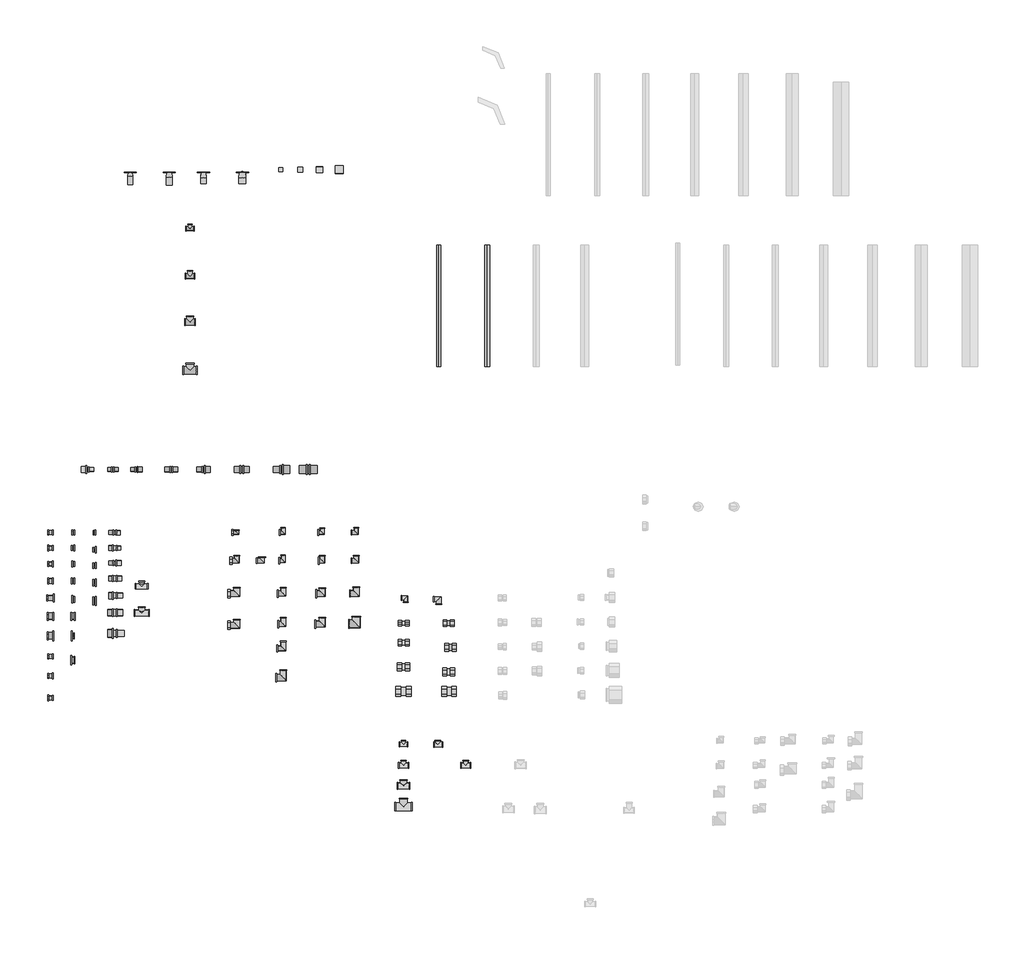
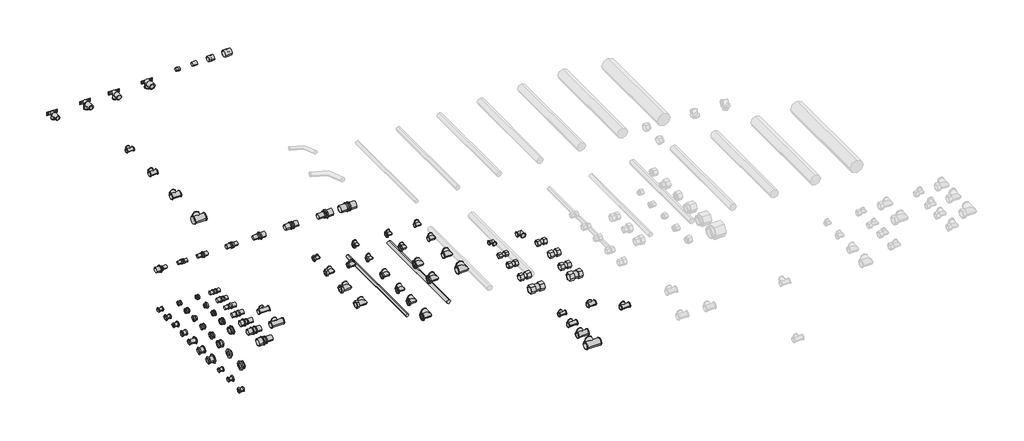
# One storey, part 1 of 2: 87 pipe fittings, 2 pipe segments.
"""IFC4 building model written with IfcOpenShell, lengths in millimetres."""

from ifc_helpers import new_model, si_unit, point, frame, frame_2d, origin, place, context, project, spatial, circle_curve, trimmed, segment, composite_curve, outline, extrude, transform, mapped, element, save
from components import pipe_fitting_b413269e, pipe_fitting_494e9d26, pipe_fitting_c3a09f15, pipe_fitting_f0777ca7, pipe_fitting_255188b3, pipe_fitting_a579391d, pipe_fitting_72a85618, pipe_fitting_0c408b0e, pipe_fitting_9ff343b9, pipe_fitting_6aa788d0, pipe_fitting_d7a32689, pipe_fitting_1a0babc5, pipe_fitting_362eb17f, pipe_fitting_6bd9dd5b, pipe_fitting_b30451f9, pipe_fitting_fd31b61a, pipe_fitting_b430804d, pipe_fitting_c4d96b34, pipe_fitting_1998f7ae, pipe_fitting_c8a579e9, pipe_fitting_be198281, pipe_fitting_3d0b1b38, pipe_fitting_1861a494, pipe_fitting_a613895f, pipe_fitting_d950e0f4, pipe_fitting_369d1954, pipe_fitting_ccf91543, pipe_fitting_24489899, pipe_fitting_95ed0b00, pipe_fitting_1736fcaa, pipe_fitting_c86cdf7f, pipe_fitting_42ed5a59, pipe_fitting_1b804304, pipe_fitting_0aba7e9f, pipe_fitting_c51fb348, pipe_fitting_a9df3e61, pipe_fitting_0a206f5e, pipe_fitting_1f87d155, pipe_fitting_74430912, pipe_fitting_481ba129, pipe_fitting_e6444bae, pipe_fitting_8c92095e, pipe_fitting_ddac6641, pipe_fitting_b67af057, pipe_fitting_e3448ef2, pipe_fitting_0f1fe841, pipe_fitting_7f24986b, pipe_fitting_8e0c83e0, pipe_fitting_767b2f23, pipe_fitting_5d692b80, pipe_fitting_73efd586, pipe_fitting_cb28dc7b, pipe_fitting_9d34596f, pipe_fitting_20898175, pipe_fitting_fa4199de, pipe_fitting_ab764f3a, pipe_fitting_751a9fbf, pipe_fitting_84537ec8, pipe_fitting_912674c2, pipe_fitting_16398a61, pipe_fitting_5ad5e90c, pipe_fitting_8c83f6f3, pipe_fitting_bd4aa50e, pipe_fitting_a28e8263, pipe_fitting_b718b052, pipe_fitting_0aa18b30, pipe_fitting_7518d13b, pipe_fitting_ca625772, pipe_fitting_e0c891ea, pipe_fitting_8489761f, pipe_fitting_fc14ec36, pipe_fitting_d68b5b16, pipe_fitting_991ed8dd, pipe_fitting_8322aa06, pipe_fitting_cadf8a1e, pipe_fitting_38ff202c, pipe_fitting_2862e8f8, pipe_fitting_f23136e4, pipe_fitting_79c094c8, pipe_fitting_5774e762, pipe_fitting_4c61a92c, pipe_fitting_cd237506

model = new_model("IFC4")

# Units and contexts
model_context = context("Model", 3, world=origin())
ifc_project = project(units=[si_unit("LENGTHUNIT", "METRE", prefix="MILLI")], contexts=[model_context])

# Site, building, storey
site = spatial("IfcSite", under=ifc_project)
building = spatial("IfcBuilding", under=site)
storey = spatial("IfcBuildingStorey", under=building, Name="Уровень 1", Elevation=0.0)

# Pipe fittings
placement = place(None, origin())
pipe_fitting_shape = pipe_fitting_b413269e(model_context)
element("IfcPipeFitting", 1, ObjectType="БИР ПЕКС_НПР_Водорозетка : Водорозетка 1/2''x16", at=placement, inside=storey, context=model_context, shape_type="MappedRepresentation", body=[
    mapped(pipe_fitting_shape, transform((-1500.7313866, 4503.7012286, 1000.0), x_axis=(1.0, 0.0, 0.0), y_axis=(0.0, 1.0, 0.0), z_axis=(0.0, 0.0, 1.0))),
])
pipe_fitting_2_shape = pipe_fitting_494e9d26(model_context)
element("IfcPipeFitting", 2, ObjectType="БИР ПЕКС_НПР_Водорозетка : Водорозетка 1/2''x20", at=placement, inside=storey, context=model_context, shape_type="MappedRepresentation", body=[
    mapped(pipe_fitting_2_shape, transform((-1340.7313866, 4503.7012286, 1000.0), x_axis=(1.0, 0.0, 0.0), y_axis=(0.0, 1.0, 0.0), z_axis=(0.0, 0.0, 1.0))),
])
pipe_fitting_3_shape = pipe_fitting_c3a09f15(model_context)
element("IfcPipeFitting", 3, ObjectType="БИР ПЕКС_НПР_Водорозетка : Водорозетка 3/4''x20", at=placement, inside=storey, context=model_context, shape_type="MappedRepresentation", body=[
    mapped(pipe_fitting_3_shape, transform((-1200.7313866, 4503.7012286, 1000.0), x_axis=(1.0, 0.0, 0.0), y_axis=(0.0, 1.0, 0.0), z_axis=(0.0, 0.0, 1.0))),
])
pipe_fitting_4_shape = pipe_fitting_f0777ca7(model_context)
element("IfcPipeFitting", 4, ObjectType="БИР ПЕКС_НПР_Водорозетка : Водорозетка 3/4''x25", at=placement, inside=storey, context=model_context, shape_type="MappedRepresentation", body=[
    mapped(pipe_fitting_4_shape, transform((-1040.7313866, 4503.7012286, 1000.0), x_axis=(1.0, 0.0, 0.0), y_axis=(0.0, 1.0, 0.0), z_axis=(0.0, 0.0, 1.0))),
])
pipe_fitting_5_shape = pipe_fitting_255188b3(model_context)
element("IfcPipeFitting", 5, ObjectType="БИР ПЕКС_НПР_Гильза : Гильза для труб ПЕКС", at=placement, inside=storey, context=model_context, shape_type="MappedRepresentation", body=[
    mapped(pipe_fitting_5_shape, transform((-884.1102372, 4512.8892594, 1000.0), x_axis=(1.0, 0.0, 0.0), y_axis=(0.0, 1.0, 0.0), z_axis=(0.0, 0.0, 1.0))),
])
pipe_fitting_6_shape = pipe_fitting_a579391d(model_context)
element("IfcPipeFitting", 6, ObjectType="БИР ПЕКС_НПР_Муфта прямая : Муфта соединительная прямая", at=placement, inside=storey, context=model_context, shape_type="MappedRepresentation", body=[
    mapped(pipe_fitting_6_shape, transform((-1572.1640037, 3282.751481, 1000.0), x_axis=(-1.0, 0.0, 0.0), y_axis=(0.0, -1.0, 0.0), z_axis=(0.0, 0.0, 1.0))),
])
pipe_fitting_7_shape = pipe_fitting_72a85618(model_context)
element("IfcPipeFitting", 7, ObjectType="БИР ПЕКС_КМП_Муфта прямая : Муфта ПЕКС Прямая", at=placement, inside=storey, context=model_context, shape_type="MappedRepresentation", body=[
    mapped(pipe_fitting_7_shape, transform((-380.1646179, 2652.5236153, 1000.0), x_axis=(1.0, 0.0, 0.0), y_axis=(0.0, 1.0, 0.0), z_axis=(0.0, 0.0, 1.0))),
])
pipe_fitting_8_shape = pipe_fitting_0c408b0e(model_context)
element("IfcPipeFitting", 8, ObjectType="БИР ПЕКС_КМП_Муфта прямая : Муфта ПЕКС Прямая", at=placement, inside=storey, context=model_context, shape_type="MappedRepresentation", body=[
    mapped(pipe_fitting_8_shape, transform((-380.1646179, 2572.5236153, 1000.0), x_axis=(1.0, 0.0, 0.0), y_axis=(0.0, 1.0, 0.0), z_axis=(0.0, 0.0, 1.0))),
])
pipe_fitting_9_shape = pipe_fitting_9ff343b9(model_context)
element("IfcPipeFitting", 9, ObjectType="БИР ПЕКС_КМП_Муфта прямая : Муфта ПЕКС Прямая", at=placement, inside=storey, context=model_context, shape_type="MappedRepresentation", body=[
    mapped(pipe_fitting_9_shape, transform((-380.1646179, 2472.5236153, 1000.0), x_axis=(1.0, 0.0, 0.0), y_axis=(0.0, 1.0, 0.0), z_axis=(0.0, 0.0, 1.0))),
])
pipe_fitting_10_shape = pipe_fitting_6aa788d0(model_context)
element("IfcPipeFitting", 10, ObjectType="БИР ПЕКС_КМП_Муфта прямая : Муфта ПЕКС Прямая", at=placement, inside=storey, context=model_context, shape_type="MappedRepresentation", body=[
    mapped(pipe_fitting_10_shape, transform((-380.1646179, 2372.5236153, 1000.0), x_axis=(1.0, 0.0, 0.0), y_axis=(0.0, 1.0, 0.0), z_axis=(0.0, 0.0, 1.0))),
])
pipe_fitting_11_shape = pipe_fitting_d7a32689(model_context)
element("IfcPipeFitting", 11, ObjectType="БИР ПЕКС_КМП_Муфта редукционная : Муфта ПЕКС Редукционная", at=placement, inside=storey, context=model_context, shape_type="MappedRepresentation", body=[
    mapped(pipe_fitting_11_shape, transform((-187.9080022, 2552.5236153, 1000.0), x_axis=(-1.0, 0.0, 0.0), y_axis=(0.0, -1.0, 0.0), z_axis=(0.0, 0.0, 1.0))),
])
element("IfcPipeFitting", 12, ObjectType="БИР ПЕКС_КМП_Муфта редукционная : Муфта ПЕКС Редукционная", at=placement, inside=storey, context=model_context, shape_type="MappedRepresentation", body=[
    mapped(pipe_fitting_11_shape, transform((-194.9080022, 2452.5236153, 1000.0), x_axis=(1.0, 0.0, 0.0), y_axis=(0.0, 1.0, 0.0), z_axis=(0.0, 0.0, 1.0))),
])
pipe_fitting_12_shape = pipe_fitting_1a0babc5(model_context)
element("IfcPipeFitting", 13, ObjectType="БИР ПЕКС_КМП_Муфта редукционная : Муфта ПЕКС Редукционная", at=placement, inside=storey, context=model_context, shape_type="MappedRepresentation", body=[
    mapped(pipe_fitting_12_shape, transform((-192.9080022, 2372.5236153, 1000.0), x_axis=(1.0, 0.0, 0.0), y_axis=(0.0, 1.0, 0.0), z_axis=(0.0, 0.0, 1.0))),
])
pipe_fitting_13_shape = pipe_fitting_362eb17f(model_context)
element("IfcPipeFitting", 14, ObjectType="БИР ПЕКС_НПР_Муфта редукционная : Муфта соединительная редукционная", at=placement, inside=storey, context=model_context, shape_type="MappedRepresentation", body=[
    mapped(pipe_fitting_13_shape, transform((-1675.6640037, 3282.751481, 1000.0), x_axis=(1.0, 0.0, 0.0), y_axis=(0.0, -1.0, 0.0), z_axis=(0.0, 0.0, -1.0))),
])
pipe_fitting_14_shape = pipe_fitting_6bd9dd5b(model_context)
element("IfcPipeFitting", 15, ObjectType="БИР ПЕКС_НПР_Соединитель_Гайка накидная : Соединитель прямой с накидной гайкой", at=placement, inside=storey, context=model_context, shape_type="MappedRepresentation", body=[
    mapped(pipe_fitting_14_shape, transform((-1828.2330935, 2895.4613545, 1000.0), x_axis=(1.0, 0.0, 0.0), y_axis=(0.0, 1.0, 0.0), z_axis=(0.0, 0.0, 1.0))),
])
pipe_fitting_15_shape = pipe_fitting_b30451f9(model_context)
element("IfcPipeFitting", 16, ObjectType="БИР ПЕКС_НПР_Тройник ПЕКС : Тройник ПЕКС_НПР", at=placement, inside=storey, context=model_context, shape_type="MappedRepresentation", body=[
    mapped(pipe_fitting_15_shape, transform((-1255.8011636, 4271.2270159, 862.8647178), x_axis=(-1.0, 0.0, 0.0), y_axis=(0.0, 1.0, 0.0), z_axis=(0.0, 0.0, -1.0))),
])
pipe_fitting_16_shape = pipe_fitting_fd31b61a(model_context)
element("IfcPipeFitting", 17, ObjectType="БИР ПЕКС_НПР_Тройник ПЕКС : Тройник ПЕКС_НПР", at=placement, inside=storey, context=model_context, shape_type="MappedRepresentation", body=[
    mapped(pipe_fitting_16_shape, transform((-1255.8011636, 4076.1898696, 862.8647178), x_axis=(-1.0, 0.0, 0.0), y_axis=(0.0, 1.0, 0.0), z_axis=(0.0, 0.0, -1.0))),
])
pipe_fitting_17_shape = pipe_fitting_b430804d(model_context)
element("IfcPipeFitting", 18, ObjectType="БИР ПЕКС_НПР_Тройник ПЕКС : Тройник ПЕКС_НПР", at=placement, inside=storey, context=model_context, shape_type="MappedRepresentation", body=[
    mapped(pipe_fitting_17_shape, transform((-1255.8011636, 3888.1833141, 862.8647178), x_axis=(-1.0, 0.0, 0.0), y_axis=(0.0, 1.0, 0.0), z_axis=(0.0, 0.0, -1.0))),
])
pipe_fitting_18_shape = pipe_fitting_c4d96b34(model_context)
element("IfcPipeFitting", 19, ObjectType="БИР ПЕКС_НПР_Тройник ПЕКС : Тройник ПЕКС_НПР", at=placement, inside=storey, context=model_context, shape_type="MappedRepresentation", body=[
    mapped(pipe_fitting_18_shape, transform((-1255.8011636, 3690.1934154, 862.8647178), x_axis=(-1.0, 0.0, 0.0), y_axis=(0.0, 1.0, 0.0), z_axis=(0.0, 0.0, -1.0))),
])
pipe_fitting_19_shape = pipe_fitting_1998f7ae(model_context)
element("IfcPipeFitting", 20, ObjectType="БИР ПЕКС_НПР_Муфта редукционная : Муфта соединительная редукционная", at=placement, inside=storey, context=model_context, shape_type="MappedRepresentation", body=[
    mapped(pipe_fitting_19_shape, transform((-1475.6640037, 3282.751481, 1000.0), x_axis=(-1.0, 0.0, 0.0), y_axis=(0.0, 1.0, 0.0), z_axis=(0.0, 0.0, -1.0))),
])
pipe_fitting_20_shape = pipe_fitting_c8a579e9(model_context)
element("IfcPipeFitting", 21, ObjectType="БИР ПЕКС_НПР_Муфта редукционная : Муфта соединительная редукционная", at=placement, inside=storey, context=model_context, shape_type="MappedRepresentation", body=[
    mapped(pipe_fitting_20_shape, transform((-1200.7313866, 3282.751481, 1000.0), x_axis=(-1.0, 0.0, 0.0), y_axis=(0.0, 1.0, 0.0), z_axis=(0.0, 0.0, -1.0))),
])
pipe_fitting_21_shape = pipe_fitting_be198281(model_context)
element("IfcPipeFitting", 22, ObjectType="БИР ПЕКС_НПР_Муфта редукционная : Муфта соединительная редукционная", at=placement, inside=storey, context=model_context, shape_type="MappedRepresentation", body=[
    mapped(pipe_fitting_21_shape, transform((-880.7313866, 3282.751481, 1000.0), x_axis=(-1.0, 0.0, 0.0), y_axis=(0.0, 1.0, 0.0), z_axis=(0.0, 0.0, -1.0))),
])
pipe_fitting_22_shape = pipe_fitting_3d0b1b38(model_context)
element("IfcPipeFitting", 23, ObjectType="БИР ПЕКС_НПР_Муфта прямая : Муфта соединительная прямая", at=placement, inside=storey, context=model_context, shape_type="MappedRepresentation", body=[
    mapped(pipe_fitting_22_shape, transform((-1332.7313866, 3282.751481, 1000.0), x_axis=(-1.0, 0.0, 0.0), y_axis=(0.0, -1.0, 0.0), z_axis=(0.0, 0.0, 1.0))),
])
pipe_fitting_23_shape = pipe_fitting_1861a494(model_context)
element("IfcPipeFitting", 24, ObjectType="БИР ПЕКС_НПР_Муфта прямая : Муфта соединительная прямая", at=placement, inside=storey, context=model_context, shape_type="MappedRepresentation", body=[
    mapped(pipe_fitting_23_shape, transform((-1043.7313866, 3282.751481, 1000.0), x_axis=(-1.0, 0.0, 0.0), y_axis=(0.0, -1.0, 0.0), z_axis=(0.0, 0.0, 1.0))),
])
pipe_fitting_24_shape = pipe_fitting_a613895f(model_context)
element("IfcPipeFitting", 25, ObjectType="БИР ПЕКС_НПР_Муфта прямая : Муфта соединительная прямая", at=placement, inside=storey, context=model_context, shape_type="MappedRepresentation", body=[
    mapped(pipe_fitting_24_shape, transform((-770.7313866, 3282.751481, 1000.0), x_axis=(-1.0, 0.0, 0.0), y_axis=(0.0, -1.0, 0.0), z_axis=(0.0, 0.0, 1.0))),
])
pipe_fitting_25_shape = pipe_fitting_d950e0f4(model_context)
element("IfcPipeFitting", 26, ObjectType="БИР ПЕКС_НПР_Соединитель_Гайка накидная : Соединитель прямой с накидной гайкой", at=placement, inside=storey, context=model_context, shape_type="MappedRepresentation", body=[
    mapped(pipe_fitting_25_shape, transform((-1828.2330935, 3023.8595715, 1000.0), x_axis=(1.0, 0.0, 0.0), y_axis=(0.0, 1.0, 0.0), z_axis=(0.0, 0.0, 1.0))),
])
pipe_fitting_26_shape = pipe_fitting_369d1954(model_context)
element("IfcPipeFitting", 27, ObjectType="БИР ПЕКС_НПР_Соединитель_Гайка накидная : Соединитель прямой с накидной гайкой", at=placement, inside=storey, context=model_context, shape_type="MappedRepresentation", body=[
    mapped(pipe_fitting_26_shape, transform((-1828.2330935, 2960.4613545, 1000.0), x_axis=(1.0, 0.0, 0.0), y_axis=(0.0, 1.0, 0.0), z_axis=(0.0, 0.0, 1.0))),
])
pipe_fitting_27_shape = pipe_fitting_ccf91543(model_context)
element("IfcPipeFitting", 28, ObjectType="БИР ПЕКС_НПР_Соединитель_Гайка накидная : Соединитель прямой с накидной гайкой", at=placement, inside=storey, context=model_context, shape_type="MappedRepresentation", body=[
    mapped(pipe_fitting_27_shape, transform((-1828.2330935, 2825.4613545, 1000.0), x_axis=(1.0, 0.0, 0.0), y_axis=(0.0, 1.0, 0.0), z_axis=(0.0, 0.0, 1.0))),
])
pipe_fitting_28_shape = pipe_fitting_24489899(model_context)
element("IfcPipeFitting", 29, ObjectType="БИР ПЕКС_НПР_Соединитель_Гайка накидная : Соединитель прямой с накидной гайкой", at=placement, inside=storey, context=model_context, shape_type="MappedRepresentation", body=[
    mapped(pipe_fitting_28_shape, transform((-1828.2330935, 2755.4613545, 1000.0), x_axis=(1.0, 0.0, 0.0), y_axis=(0.0, 1.0, 0.0), z_axis=(0.0, 0.0, 1.0))),
])
pipe_fitting_29_shape = pipe_fitting_95ed0b00(model_context)
element("IfcPipeFitting", 30, ObjectType="БИР ПЕКС_НПР_Соединитель_Гайка накидная : Соединитель прямой с накидной гайкой", at=placement, inside=storey, context=model_context, shape_type="MappedRepresentation", body=[
    mapped(pipe_fitting_29_shape, transform((-1828.2330935, 2680.4613545, 1000.0), x_axis=(1.0, 0.0, 0.0), y_axis=(0.0, 1.0, 0.0), z_axis=(0.0, 0.0, 1.0))),
])
pipe_fitting_30_shape = pipe_fitting_1736fcaa(model_context)
element("IfcPipeFitting", 31, ObjectType="БИР ПЕКС_НПР_Соединитель_Гайка накидная : Соединитель прямой с накидной гайкой", at=placement, inside=storey, context=model_context, shape_type="MappedRepresentation", body=[
    mapped(pipe_fitting_30_shape, transform((-1828.2330935, 2600.4613545, 1000.0), x_axis=(1.0, 0.0, 0.0), y_axis=(0.0, 1.0, 0.0), z_axis=(0.0, 0.0, 1.0))),
])
element("IfcPipeFitting", 32, ObjectType="БИР ПЕКС_НПР_Соединитель_Гайка накидная : Соединитель прямой с накидной гайкой", at=placement, inside=storey, context=model_context, shape_type="MappedRepresentation", body=[
    mapped(pipe_fitting_25_shape, transform((-1828.2330935, 2515.4613545, 1000.0), x_axis=(1.0, 0.0, 0.0), y_axis=(0.0, 1.0, 0.0), z_axis=(0.0, 0.0, 1.0))),
])
pipe_fitting_31_shape = pipe_fitting_c86cdf7f(model_context)
element("IfcPipeFitting", 33, ObjectType="БИР ПЕКС_НПР_Соединитель_Гайка накидная : Соединитель прямой с накидной гайкой", at=placement, inside=storey, context=model_context, shape_type="MappedRepresentation", body=[
    mapped(pipe_fitting_31_shape, transform((-1828.2330935, 2435.4613545, 1000.0), x_axis=(1.0, 0.0, 0.0), y_axis=(0.0, 1.0, 0.0), z_axis=(0.0, 0.0, 1.0))),
])
pipe_fitting_32_shape = pipe_fitting_42ed5a59(model_context)
element("IfcPipeFitting", 34, ObjectType="БИР ПЕКС_НПР_Соединитель_Гайка накидная : Соединитель прямой с накидной гайкой", at=placement, inside=storey, context=model_context, shape_type="MappedRepresentation", body=[
    mapped(pipe_fitting_32_shape, transform((-1828.2330935, 2345.4613545, 1000.0), x_axis=(1.0, 0.0, 0.0), y_axis=(0.0, 1.0, 0.0), z_axis=(0.0, 0.0, 1.0))),
])
pipe_fitting_33_shape = pipe_fitting_1b804304(model_context)
element("IfcPipeFitting", 35, ObjectType="БИР ПЕКС_НПР_Соединитель_Резьба_Внутренняя : Соединитель прямой с внутренней резьбой", at=placement, inside=storey, context=model_context, shape_type="MappedRepresentation", body=[
    mapped(pipe_fitting_33_shape, transform((-1736.124472, 2960.4613545, 1000.0), x_axis=(-1.0, 0.0, 0.0), y_axis=(0.0, 1.0, 0.0), z_axis=(0.0, 0.0, -1.0))),
])
pipe_fitting_34_shape = pipe_fitting_0aba7e9f(model_context)
element("IfcPipeFitting", 36, ObjectType="БИР ПЕКС_НПР_Соединитель_Резьба_Внутренняя : Соединитель прямой с внутренней резьбой", at=placement, inside=storey, context=model_context, shape_type="MappedRepresentation", body=[
    mapped(pipe_fitting_34_shape, transform((-1734.7702132, 3023.8595715, 1000.0), x_axis=(-1.0, 0.0, 0.0), y_axis=(0.0, 1.0, 0.0), z_axis=(0.0, 0.0, -1.0))),
])
pipe_fitting_35_shape = pipe_fitting_c51fb348(model_context)
element("IfcPipeFitting", 37, ObjectType="БИР ПЕКС_НПР_Соединитель_Резьба_Внутренняя : Соединитель прямой с внутренней резьбой", at=placement, inside=storey, context=model_context, shape_type="MappedRepresentation", body=[
    mapped(pipe_fitting_35_shape, transform((-1736.124472, 2825.4613545, 1000.0), x_axis=(-1.0, 0.0, 0.0), y_axis=(0.0, 1.0, 0.0), z_axis=(0.0, 0.0, -1.0))),
])
pipe_fitting_36_shape = pipe_fitting_a9df3e61(model_context)
element("IfcPipeFitting", 38, ObjectType="БИР ПЕКС_НПР_Соединитель_Резьба_Внутренняя : Соединитель прямой с внутренней резьбой", at=placement, inside=storey, context=model_context, shape_type="MappedRepresentation", body=[
    mapped(pipe_fitting_36_shape, transform((-1734.7702132, 2895.4613545, 1000.0), x_axis=(-1.0, 0.0, 0.0), y_axis=(0.0, 1.0, 0.0), z_axis=(0.0, 0.0, -1.0))),
])
pipe_fitting_37_shape = pipe_fitting_0a206f5e(model_context)
element("IfcPipeFitting", 39, ObjectType="БИР ПЕКС_НПР_Соединитель_Резьба_Внутренняя : Соединитель прямой с внутренней резьбой", at=placement, inside=storey, context=model_context, shape_type="MappedRepresentation", body=[
    mapped(pipe_fitting_37_shape, transform((-1736.124472, 2680.4613545, 1000.0), x_axis=(-1.0, 0.0, 0.0), y_axis=(0.0, 1.0, 0.0), z_axis=(0.0, 0.0, -1.0))),
])
pipe_fitting_38_shape = pipe_fitting_1f87d155(model_context)
element("IfcPipeFitting", 40, ObjectType="БИР ПЕКС_НПР_Соединитель_Резьба_Внутренняя : Соединитель прямой с внутренней резьбой", at=placement, inside=storey, context=model_context, shape_type="MappedRepresentation", body=[
    mapped(pipe_fitting_38_shape, transform((-1734.7702132, 2750.4613545, 1000.0), x_axis=(-1.0, 0.0, 0.0), y_axis=(0.0, 1.0, 0.0), z_axis=(0.0, 0.0, -1.0))),
])
pipe_fitting_39_shape = pipe_fitting_74430912(model_context)
element("IfcPipeFitting", 41, ObjectType="БИР ПЕКС_НПР_Соединитель_Резьба_Внутренняя : Соединитель прямой с внутренней резьбой", at=placement, inside=storey, context=model_context, shape_type="MappedRepresentation", body=[
    mapped(pipe_fitting_39_shape, transform((-1736.124472, 2600.4613545, 1000.0), x_axis=(-1.0, 0.0, 0.0), y_axis=(0.0, 1.0, 0.0), z_axis=(0.0, 0.0, -1.0))),
])
pipe_fitting_40_shape = pipe_fitting_481ba129(model_context)
element("IfcPipeFitting", 42, ObjectType="БИР ПЕКС_НПР_Соединитель_Резьба_Внутренняя : Соединитель прямой с внутренней резьбой", at=placement, inside=storey, context=model_context, shape_type="MappedRepresentation", body=[
    mapped(pipe_fitting_40_shape, transform((-1736.124472, 2500.4613545, 1000.0), x_axis=(-1.0, 0.0, 0.0), y_axis=(0.0, 1.0, 0.0), z_axis=(0.0, 0.0, -1.0))),
])
pipe_fitting_41_shape = pipe_fitting_e6444bae(model_context)
element("IfcPipeFitting", 43, ObjectType="БИР ПЕКС_НПР_Соединитель_Медь : Соединитель медь (пайка) — ПЕКС", at=placement, inside=storey, context=model_context, shape_type="MappedRepresentation", body=[
    mapped(pipe_fitting_41_shape, transform((-1647.6569963, 3023.8595715, 1000.0), x_axis=(1.0, 0.0, 0.0), y_axis=(0.0, -1.0, 0.0), z_axis=(0.0, 0.0, -1.0))),
])
pipe_fitting_42_shape = pipe_fitting_8c92095e(model_context)
element("IfcPipeFitting", 44, ObjectType="БИР ПЕКС_НПР_Соединитель_Медь : Соединитель медь (пайка) — ПЕКС", at=placement, inside=storey, context=model_context, shape_type="MappedRepresentation", body=[
    mapped(pipe_fitting_42_shape, transform((-1647.6569963, 2953.8595715, 1000.0), x_axis=(1.0, 0.0, 0.0), y_axis=(0.0, -1.0, 0.0), z_axis=(0.0, 0.0, -1.0))),
])
pipe_fitting_43_shape = pipe_fitting_ddac6641(model_context)
element("IfcPipeFitting", 45, ObjectType="БИР ПЕКС_НПР_Соединитель_Медь : Соединитель медь (пайка) — ПЕКС", at=placement, inside=storey, context=model_context, shape_type="MappedRepresentation", body=[
    mapped(pipe_fitting_43_shape, transform((-1647.6569963, 2888.8595715, 1000.0), x_axis=(1.0, 0.0, 0.0), y_axis=(0.0, -1.0, 0.0), z_axis=(0.0, 0.0, -1.0))),
])
pipe_fitting_44_shape = pipe_fitting_b67af057(model_context)
element("IfcPipeFitting", 46, ObjectType="БИР ПЕКС_НПР_Соединитель_Медь : Соединитель медь (пайка) — ПЕКС", at=placement, inside=storey, context=model_context, shape_type="MappedRepresentation", body=[
    mapped(pipe_fitting_44_shape, transform((-1647.6569963, 2818.8595715, 1000.0), x_axis=(1.0, 0.0, 0.0), y_axis=(0.0, -1.0, 0.0), z_axis=(0.0, 0.0, -1.0))),
])
pipe_fitting_45_shape = pipe_fitting_e3448ef2(model_context)
element("IfcPipeFitting", 47, ObjectType="БИР ПЕКС_НПР_Соединитель_Медь : Соединитель медь (пайка) — ПЕКС", at=placement, inside=storey, context=model_context, shape_type="MappedRepresentation", body=[
    mapped(pipe_fitting_45_shape, transform((-1647.6569963, 2743.8595715, 1000.0), x_axis=(1.0, 0.0, 0.0), y_axis=(0.0, -1.0, 0.0), z_axis=(0.0, 0.0, -1.0))),
])
pipe_fitting_46_shape = pipe_fitting_0f1fe841(model_context)
element("IfcPipeFitting", 48, ObjectType="БИР ПЕКС_НПР_Соединитель_Резьба_Наружная : Соединитель прямой с наружной резьбой", at=placement, inside=storey, context=model_context, shape_type="MappedRepresentation", body=[
    mapped(pipe_fitting_46_shape, transform((-1561.4986626, 2960.4613545, 1000.0), x_axis=(-1.0, 0.0, 0.0), y_axis=(0.0, 1.0, 0.0), z_axis=(0.0, 0.0, -1.0))),
])
pipe_fitting_47_shape = pipe_fitting_7f24986b(model_context)
element("IfcPipeFitting", 49, ObjectType="БИР ПЕКС_НПР_Соединитель_Резьба_Наружная : Соединитель прямой с наружной резьбой", at=placement, inside=storey, context=model_context, shape_type="MappedRepresentation", body=[
    mapped(pipe_fitting_47_shape, transform((-1562.589336, 2898.8595715, 1000.0), x_axis=(-1.0, 0.0, 0.0), y_axis=(0.0, 1.0, 0.0), z_axis=(0.0, 0.0, -1.0))),
])
pipe_fitting_48_shape = pipe_fitting_8e0c83e0(model_context)
element("IfcPipeFitting", 50, ObjectType="БИР ПЕКС_НПР_Соединитель_Резьба_Наружная : Соединитель прямой с наружной резьбой", at=placement, inside=storey, context=model_context, shape_type="MappedRepresentation", body=[
    mapped(pipe_fitting_48_shape, transform((-1561.4986626, 2835.4613545, 1000.0), x_axis=(-1.0, 0.0, 0.0), y_axis=(0.0, 1.0, 0.0), z_axis=(0.0, 0.0, -1.0))),
])
pipe_fitting_49_shape = pipe_fitting_767b2f23(model_context)
element("IfcPipeFitting", 51, ObjectType="БИР ПЕКС_НПР_Соединитель_Резьба_Наружная : Соединитель прямой с наружной резьбой", at=placement, inside=storey, context=model_context, shape_type="MappedRepresentation", body=[
    mapped(pipe_fitting_49_shape, transform((-1561.4986626, 2765.4613545, 1000.0), x_axis=(-1.0, 0.0, 0.0), y_axis=(0.0, 1.0, 0.0), z_axis=(0.0, 0.0, -1.0))),
])
pipe_fitting_50_shape = pipe_fitting_5d692b80(model_context)
element("IfcPipeFitting", 52, ObjectType="БИР ПЕКС_НПР_Соединитель_Резьба_Наружная : Соединитель прямой с наружной резьбой", at=placement, inside=storey, context=model_context, shape_type="MappedRepresentation", body=[
    mapped(pipe_fitting_50_shape, transform((-1561.4986626, 2695.4613545, 1000.0), x_axis=(-1.0, 0.0, 0.0), y_axis=(0.0, 1.0, 0.0), z_axis=(0.0, 0.0, -1.0))),
])
pipe_fitting_51_shape = pipe_fitting_73efd586(model_context)
element("IfcPipeFitting", 53, ObjectType="БИР ПЕКС_НПР_Соединитель_Резьба_Наружная : Соединитель прямой с наружной резьбой", at=placement, inside=storey, context=model_context, shape_type="MappedRepresentation", body=[
    mapped(pipe_fitting_51_shape, transform((-1561.4986626, 2610.4613545, 1000.0), x_axis=(-1.0, 0.0, 0.0), y_axis=(0.0, 1.0, 0.0), z_axis=(0.0, 0.0, -1.0))),
])
pipe_fitting_52_shape = pipe_fitting_cb28dc7b(model_context)
element("IfcPipeFitting", 54, ObjectType="БИР ПЕКС_НПР_Тройник_ВР : Тройник с внутренней резьбой", at=placement, inside=storey, context=model_context, shape_type="MappedRepresentation", body=[
    mapped(pipe_fitting_52_shape, transform((-1453.9974027, 2803.8595715, 1000.0), x_axis=(1.0, 0.0, 0.0), y_axis=(0.0, 1.0, 0.0), z_axis=(0.0, 0.0, 1.0))),
])
pipe_fitting_53_shape = pipe_fitting_9d34596f(model_context)
element("IfcPipeFitting", 55, ObjectType="БИР ПЕКС_НПР_Тройник_ВР : Тройник с внутренней резьбой", at=placement, inside=storey, context=model_context, shape_type="MappedRepresentation", body=[
    mapped(pipe_fitting_53_shape, transform((-1453.9974027, 2693.8595715, 1000.0), x_axis=(1.0, 0.0, 0.0), y_axis=(0.0, 1.0, 0.0), z_axis=(0.0, 0.0, 1.0))),
])
pipe_fitting_54_shape = pipe_fitting_20898175(model_context)
element("IfcPipeFitting", 56, ObjectType="БИР ПЕКС_НПР_Угольник_Гайка накидная : Угольник с накидной гайкой", at=placement, inside=storey, context=model_context, shape_type="MappedRepresentation", body=[
    mapped(pipe_fitting_54_shape, transform((-1064.0954407, 2908.8595715, 1000.0), x_axis=(1.0, 0.0, 0.0), y_axis=(0.0, 1.0, 0.0), z_axis=(0.0, 0.0, 1.0))),
])
pipe_fitting_55_shape = pipe_fitting_fa4199de(model_context)
element("IfcPipeFitting", 57, ObjectType="БИР ПЕКС_НПР_Угольник_Гайка накидная : Угольник с накидной гайкой", at=placement, inside=storey, context=model_context, shape_type="MappedRepresentation", body=[
    mapped(pipe_fitting_55_shape, transform((-1064.0954407, 2773.8595715, 1000.0), x_axis=(1.0, 0.0, 0.0), y_axis=(0.0, 1.0, 0.0), z_axis=(0.0, 0.0, 1.0))),
])
pipe_fitting_56_shape = pipe_fitting_ab764f3a(model_context)
element("IfcPipeFitting", 58, ObjectType="БИР ПЕКС_НПР_Угольник_Гайка накидная : Угольник с накидной гайкой", at=placement, inside=storey, context=model_context, shape_type="MappedRepresentation", body=[
    mapped(pipe_fitting_56_shape, transform((-1064.0954407, 2643.8595715, 1000.0), x_axis=(1.0, 0.0, 0.0), y_axis=(0.0, 1.0, 0.0), z_axis=(0.0, 0.0, 1.0))),
])
pipe_fitting_57_shape = pipe_fitting_751a9fbf(model_context)
element("IfcPipeFitting", 59, ObjectType="БИР ПЕКС_НПР_Угольник_Резьба_Внутренняя : Угольник с внутренней резьбой", at=placement, inside=storey, context=model_context, shape_type="MappedRepresentation", body=[
    mapped(pipe_fitting_57_shape, transform((-873.7313866, 3023.8595715, 1000.0), x_axis=(1.0, 0.0, 0.0), y_axis=(0.0, 1.0, 0.0), z_axis=(0.0, 0.0, 1.0))),
])
pipe_fitting_58_shape = pipe_fitting_84537ec8(model_context)
element("IfcPipeFitting", 60, ObjectType="БИР ПЕКС_НПР_Угольник_Резьба_Внутренняя : Угольник с внутренней резьбой", at=placement, inside=storey, context=model_context, shape_type="MappedRepresentation", body=[
    mapped(pipe_fitting_58_shape, transform((-873.7313866, 2908.8595715, 1000.0), x_axis=(1.0, 0.0, 0.0), y_axis=(0.0, 1.0, 0.0), z_axis=(0.0, 0.0, 1.0))),
])
pipe_fitting_59_shape = pipe_fitting_912674c2(model_context)
element("IfcPipeFitting", 61, ObjectType="БИР ПЕКС_НПР_Угольник_Резьба_Внутренняя : Угольник с внутренней резьбой", at=placement, inside=storey, context=model_context, shape_type="MappedRepresentation", body=[
    mapped(pipe_fitting_59_shape, transform((-873.7313866, 2773.8595715, 1000.0), x_axis=(1.0, 0.0, 0.0), y_axis=(0.0, 1.0, 0.0), z_axis=(0.0, 0.0, 1.0))),
])
pipe_fitting_60_shape = pipe_fitting_16398a61(model_context)
element("IfcPipeFitting", 62, ObjectType="БИР ПЕКС_НПР_Угольник_Резьба_Внутренняя : Угольник с внутренней резьбой", at=placement, inside=storey, context=model_context, shape_type="MappedRepresentation", body=[
    mapped(pipe_fitting_60_shape, transform((-873.7313866, 2548.8595715, 1000.0), x_axis=(1.0, 0.0, 0.0), y_axis=(0.0, 1.0, 0.0), z_axis=(0.0, 0.0, 1.0))),
])
pipe_fitting_61_shape = pipe_fitting_5ad5e90c(model_context)
element("IfcPipeFitting", 63, ObjectType="БИР ПЕКС_НПР_Угольник_Резьба_Внутренняя : Угольник с внутренней резьбой", at=placement, inside=storey, context=model_context, shape_type="MappedRepresentation", body=[
    mapped(pipe_fitting_61_shape, transform((-873.7313866, 2428.8595715, 1000.0), x_axis=(1.0, 0.0, 0.0), y_axis=(0.0, 1.0, 0.0), z_axis=(0.0, 0.0, 1.0))),
])
pipe_fitting_62_shape = pipe_fitting_8c83f6f3(model_context)
element("IfcPipeFitting", 64, ObjectType="БИР ПЕКС_НПР_Угольник_Резьба_Наружная : Угольник с наружной резьбой", at=placement, inside=storey, context=model_context, shape_type="MappedRepresentation", body=[
    mapped(pipe_fitting_62_shape, transform((-713.7313866, 2908.8595715, 1000.0), x_axis=(1.0, 0.0, 0.0), y_axis=(0.0, 1.0, 0.0), z_axis=(0.0, 0.0, 1.0))),
])
pipe_fitting_63_shape = pipe_fitting_bd4aa50e(model_context)
element("IfcPipeFitting", 65, ObjectType="БИР ПЕКС_НПР_Угольник_Резьба_Наружная : Угольник с наружной резьбой", at=placement, inside=storey, context=model_context, shape_type="MappedRepresentation", body=[
    mapped(pipe_fitting_63_shape, transform((-713.7313866, 2773.8595715, 1000.0), x_axis=(1.0, 0.0, 0.0), y_axis=(0.0, 1.0, 0.0), z_axis=(0.0, 0.0, 1.0))),
])
pipe_fitting_64_shape = pipe_fitting_a28e8263(model_context)
element("IfcPipeFitting", 66, ObjectType="БИР ПЕКС_НПР_Угольник_Резьба_Наружная : Угольник с наружной резьбой", at=placement, inside=storey, context=model_context, shape_type="MappedRepresentation", body=[
    mapped(pipe_fitting_64_shape, transform((-713.7313866, 2648.8595715, 1000.0), x_axis=(1.0, 0.0, 0.0), y_axis=(0.0, 1.0, 0.0), z_axis=(0.0, 0.0, 1.0))),
])
pipe_fitting_65_shape = pipe_fitting_b718b052(model_context)
element("IfcPipeFitting", 67, ObjectType="БИР ПЕКС_НПР_Угольник ПЕКС 90 : Угольник ПЕКС 90°", at=placement, inside=storey, context=model_context, shape_type="MappedRepresentation", body=[
    mapped(pipe_fitting_65_shape, transform((-573.7313866, 2908.8595715, 1000.0), x_axis=(1.0, 0.0, 0.0), y_axis=(0.0, 1.0, 0.0), z_axis=(0.0, 0.0, 1.0))),
])
pipe_fitting_66_shape = pipe_fitting_0aa18b30(model_context)
element("IfcPipeFitting", 68, ObjectType="БИР ПЕКС_НПР_Угольник ПЕКС 90 : Угольник ПЕКС 90°", at=placement, inside=storey, context=model_context, shape_type="MappedRepresentation", body=[
    mapped(pipe_fitting_66_shape, transform((-573.7313866, 2773.8595715, 1000.0), x_axis=(1.0, 0.0, 0.0), y_axis=(0.0, 1.0, 0.0), z_axis=(0.0, 0.0, 1.0))),
])
pipe_fitting_67_shape = pipe_fitting_7518d13b(model_context)
element("IfcPipeFitting", 69, ObjectType="БИР ПЕКС_НПР_Угольник ПЕКС 90 : Угольник ПЕКС 90°", at=placement, inside=storey, context=model_context, shape_type="MappedRepresentation", body=[
    mapped(pipe_fitting_67_shape, transform((-573.7313866, 2648.8595715, 1000.0), x_axis=(1.0, 0.0, 0.0), y_axis=(0.0, 1.0, 0.0), z_axis=(0.0, 0.0, 1.0))),
])
pipe_fitting_68_shape = pipe_fitting_ca625772(model_context)
element("IfcPipeFitting", 70, ObjectType="БИР ПЕКС_КМП_Тройник ПЕКС : Тройник ПЕКС_КМП", at=placement, inside=storey, context=model_context, shape_type="MappedRepresentation", body=[
    mapped(pipe_fitting_68_shape, transform((-380.1646179, 2154.3567431, 1000.0), x_axis=(1.0, 0.0, 0.0), y_axis=(0.0, 1.0, 0.0), z_axis=(0.0, 0.0, 1.0))),
])
pipe_fitting_69_shape = pipe_fitting_e0c891ea(model_context)
element("IfcPipeFitting", 71, ObjectType="БИР ПЕКС_КМП_Тройник ПЕКС : Тройник ПЕКС_КМП", at=placement, inside=storey, context=model_context, shape_type="MappedRepresentation", body=[
    mapped(pipe_fitting_69_shape, transform((-380.1646179, 2069.3567431, 1000.0), x_axis=(1.0, 0.0, 0.0), y_axis=(0.0, 1.0, 0.0), z_axis=(0.0, 0.0, 1.0))),
])
pipe_fitting_70_shape = pipe_fitting_8489761f(model_context)
element("IfcPipeFitting", 72, ObjectType="БИР ПЕКС_КМП_Тройник ПЕКС : Тройник ПЕКС_КМП", at=placement, inside=storey, context=model_context, shape_type="MappedRepresentation", body=[
    mapped(pipe_fitting_70_shape, transform((-380.1646179, 1984.3567431, 1000.0), x_axis=(1.0, 0.0, 0.0), y_axis=(0.0, 1.0, 0.0), z_axis=(0.0, 0.0, 1.0))),
])
pipe_fitting_71_shape = pipe_fitting_fc14ec36(model_context)
element("IfcPipeFitting", 73, ObjectType="БИР ПЕКС_КМП_Тройник ПЕКС : Тройник ПЕКС_КМП", at=placement, inside=storey, context=model_context, shape_type="MappedRepresentation", body=[
    mapped(pipe_fitting_71_shape, transform((-380.1646179, 1899.3567431, 1000.0), x_axis=(1.0, 0.0, 0.0), y_axis=(0.0, 1.0, 0.0), z_axis=(0.0, 0.0, 1.0))),
])
pipe_fitting_72_shape = pipe_fitting_d68b5b16(model_context)
element("IfcPipeFitting", 74, ObjectType="БИР ПЕКС_КМП_Тройник ПЕКС : Тройник ПЕКС_КМП", at=placement, inside=storey, context=model_context, shape_type="MappedRepresentation", body=[
    mapped(pipe_fitting_72_shape, transform((-240.1646179, 2154.3567431, 1000.0), x_axis=(1.0, 0.0, 0.0), y_axis=(0.0, 1.0, 0.0), z_axis=(0.0, 0.0, 1.0))),
])
element("IfcPipeFitting", 75, ObjectType="БИР ПЕКС_КМП_Тройник ПЕКС : Тройник ПЕКС_КМП", at=placement, inside=storey, context=model_context, shape_type="MappedRepresentation", body=[
    mapped(pipe_fitting_69_shape, transform((-125.1646179, 2069.3567431, 1000.0), x_axis=(1.0, 0.0, 0.0), y_axis=(0.0, 1.0, 0.0), z_axis=(0.0, 0.0, 1.0))),
])
pipe_fitting_73_shape = pipe_fitting_991ed8dd(model_context)
element("IfcPipeFitting", 76, ObjectType="БИР ПЕКС_НПР_Соединитель_Резьба_Наружная : Соединитель прямой с наружной резьбой", at=placement, inside=storey, context=model_context, shape_type="MappedRepresentation", body=[
    mapped(pipe_fitting_73_shape, transform((-1562.589336, 3023.8595715, 1000.0), x_axis=(-1.0, 0.0, 0.0), y_axis=(0.0, 1.0, 0.0), z_axis=(0.0, 0.0, -1.0))),
])
pipe_fitting_74_shape = pipe_fitting_8322aa06(model_context)
element("IfcPipeFitting", 77, ObjectType="БИР ПЕКС_НПР_Гильза : Гильза для труб ПЕКС", at=placement, inside=storey, context=model_context, shape_type="MappedRepresentation", body=[
    mapped(pipe_fitting_74_shape, transform((-804.1102372, 4512.8892594, 1000.0), x_axis=(1.0, 0.0, 0.0), y_axis=(0.0, 1.0, 0.0), z_axis=(0.0, 0.0, 1.0))),
])
pipe_fitting_75_shape = pipe_fitting_cadf8a1e(model_context)
element("IfcPipeFitting", 78, ObjectType="БИР ПЕКС_НПР_Гильза : Гильза для труб ПЕКС", at=placement, inside=storey, context=model_context, shape_type="MappedRepresentation", body=[
    mapped(pipe_fitting_75_shape, transform((-724.1102372, 4512.8892594, 1000.0), x_axis=(1.0, 0.0, 0.0), y_axis=(0.0, 1.0, 0.0), z_axis=(0.0, 0.0, 1.0))),
])
pipe_fitting_76_shape = pipe_fitting_38ff202c(model_context)
element("IfcPipeFitting", 79, ObjectType="БИР ПЕКС_НПР_Гильза : Гильза для труб ПЕКС", at=placement, inside=storey, context=model_context, shape_type="MappedRepresentation", body=[
    mapped(pipe_fitting_76_shape, transform((-644.1102372, 4512.8892594, 1000.0), x_axis=(1.0, 0.0, 0.0), y_axis=(0.0, 1.0, 0.0), z_axis=(0.0, 0.0, 1.0))),
])
pipe_fitting_77_shape = pipe_fitting_2862e8f8(model_context)
element("IfcPipeFitting", 80, ObjectType="БИР ПЕКС_НПР_Угольник ПЕКС 90 : Угольник ПЕКС 90°", at=placement, inside=storey, context=model_context, shape_type="MappedRepresentation", body=[
    mapped(pipe_fitting_77_shape, transform((-573.7313866, 3023.8595715, 1000.0), x_axis=(1.0, 0.0, 0.0), y_axis=(0.0, 1.0, 0.0), z_axis=(0.0, 0.0, 1.0))),
])
pipe_fitting_78_shape = pipe_fitting_f23136e4(model_context)
element("IfcPipeFitting", 81, ObjectType="БИР ПЕКС_НПР_Угольник_Гайка накидная : Угольник с накидной гайкой", at=placement, inside=storey, context=model_context, shape_type="MappedRepresentation", body=[
    mapped(pipe_fitting_78_shape, transform((-1064.0954407, 3023.8595715, 1000.0), x_axis=(1.0, 0.0, 0.0), y_axis=(0.0, 1.0, 0.0), z_axis=(0.0, 0.0, 1.0))),
])
pipe_fitting_79_shape = pipe_fitting_79c094c8(model_context)
element("IfcPipeFitting", 82, ObjectType="БИР ПЕКС_НПР_Угольник_Медь : Угольник медь (пайка) — ПЕКС", at=placement, inside=storey, context=model_context, shape_type="MappedRepresentation", body=[
    mapped(pipe_fitting_79_shape, transform((-960.7380597, 2908.8595715, 1000.0), x_axis=(1.0, 0.0, 0.0), y_axis=(0.0, 1.0, 0.0), z_axis=(0.0, 0.0, 1.0))),
])
pipe_fitting_80_shape = pipe_fitting_5774e762(model_context)
element("IfcPipeFitting", 83, ObjectType="БИР ПЕКС_НПР_Угольник_Резьба_Внутренняя : Угольник с внутренней резьбой", at=placement, inside=storey, context=model_context, shape_type="MappedRepresentation", body=[
    mapped(pipe_fitting_80_shape, transform((-873.7313866, 2648.8595715, 1000.0), x_axis=(1.0, 0.0, 0.0), y_axis=(0.0, 1.0, 0.0), z_axis=(0.0, 0.0, 1.0))),
])
pipe_fitting_81_shape = pipe_fitting_4c61a92c(model_context)
element("IfcPipeFitting", 84, ObjectType="БИР ПЕКС_НПР_Угольник_Резьба_Наружная : Угольник с наружной резьбой", at=placement, inside=storey, context=model_context, shape_type="MappedRepresentation", body=[
    mapped(pipe_fitting_81_shape, transform((-713.7313866, 3023.8595715, 1000.0), x_axis=(1.0, 0.0, 0.0), y_axis=(0.0, 1.0, 0.0), z_axis=(0.0, 0.0, 1.0))),
])
pipe_fitting_82_shape = pipe_fitting_cd237506(model_context)
element("IfcPipeFitting", 85, ObjectType="БИР ПЕКС_КМП_Водорозетка : Водорозетка 1/2''x16 КМП", at=placement, inside=storey, context=model_context, shape_type="MappedRepresentation", body=[
    mapped(pipe_fitting_82_shape, transform((-371.1947216, 2755.4427197, 1000.0), x_axis=(0.0, 1.0, 0.0), y_axis=(-1.000000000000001, 0.0, 0.0), z_axis=(0.0, 0.0, 1.000000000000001))),
])
element("IfcPipeFitting", 86, ObjectType="БИР ПЕКС_КМП_Водорозетка : Водорозетка 1/2''x20 КМП", at=placement, inside=storey, context=model_context, shape_type="MappedRepresentation", body=[
    mapped(pipe_fitting_65_shape, transform((-236.27696, 2750.7312876, 1000.0), x_axis=(0.0, 1.0, 0.0), y_axis=(-1.000000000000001, 0.0, 0.0), z_axis=(0.0, 0.0, 1.000000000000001))),
])
element("IfcPipeFitting", 87, ObjectType="БИР ПЕКС_КМП_Муфта редукционная : Муфта ПЕКС Редукционная", at=placement, inside=storey, context=model_context, shape_type="MappedRepresentation", body=[
    mapped(pipe_fitting_8_shape, transform((-194.9080022, 2652.5236153, 1000.0), x_axis=(-1.0, 0.0, 0.0), y_axis=(0.0, -1.0, 0.0), z_axis=(0.0, 0.0, 1.0))),
])

# Pipe segments
element("IfcPipeSegment", 88, ObjectType="БИР ПЕКС_Стандарт_Класс 5_PN 20_SDR 7,4", at=placement, inside=storey, context=model_context, shape_type="SweptSolid", body=[
    extrude(outline(composite_curve([segment(trimmed(circle_curve(frame_2d((0.0, -236.27696)), 8.0), [point((0.0, -228.27696))], [point((8.0, -236.27696))], False, "CARTESIAN"), True, "CONTINUOUS"), segment(trimmed(circle_curve(frame_2d((0.0, -236.27696)), 8.0), [point((8.0, -236.27696))], [point((0.0, -244.27696))], False, "CARTESIAN"), True, "CONTINUOUS"), segment(trimmed(circle_curve(frame_2d((0.0, -236.27696)), 8.0), [point((0.0, -244.27696))], [point((-8.0, -236.27696))], False, "CARTESIAN"), True, "CONTINUOUS"), segment(trimmed(circle_curve(frame_2d((0.0, -236.27696)), 8.0), [point((-8.0, -236.27696))], [point((0.0, -228.27696))], False, "CARTESIAN"), True, "CONTINUOUS")], self_intersect=False)), frame((0.0, 3704.8987353, 0.0), z_axis=(0.0, 1.0, 0.0), x_axis=(0.0, 0.0, 1.0)), (0.0, 0.0, 1.0), 500.0),
])
element("IfcPipeSegment", 89, ObjectType="БИР ПЕКС_Стандарт_Класс 5_PN 20_SDR 7,4", at=placement, inside=storey, context=model_context, shape_type="SweptSolid", body=[
    extrude(outline(composite_curve([segment(trimmed(circle_curve(frame_2d((0.0, -36.27696)), 10.0), [point((0.0, -26.27696))], [point((10.0, -36.27696))], False, "CARTESIAN"), True, "CONTINUOUS"), segment(trimmed(circle_curve(frame_2d((0.0, -36.27696)), 10.0), [point((10.0, -36.27696))], [point((0.0, -46.27696))], False, "CARTESIAN"), True, "CONTINUOUS"), segment(trimmed(circle_curve(frame_2d((0.0, -36.27696)), 10.0), [point((0.0, -46.27696))], [point((-10.0, -36.27696))], False, "CARTESIAN"), True, "CONTINUOUS"), segment(trimmed(circle_curve(frame_2d((0.0, -36.27696)), 10.0), [point((-10.0, -36.27696))], [point((0.0, -26.27696))], False, "CARTESIAN"), True, "CONTINUOUS")], self_intersect=False)), frame((0.0, 3704.8987353, 0.0), z_axis=(0.0, 1.0, 0.0), x_axis=(0.0, 0.0, 1.0)), (0.0, 0.0, 1.0), 500.0),
])

save(model, "model.ifc")
